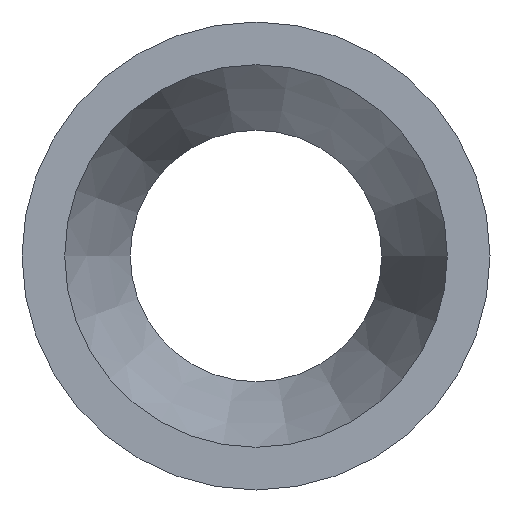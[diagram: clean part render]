
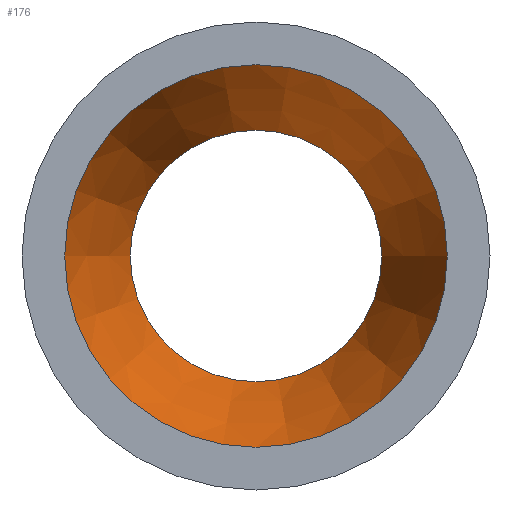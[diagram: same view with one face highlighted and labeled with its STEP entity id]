
A CAD part, left-side view. The second image highlights one B-rep face of the part: STEP entity #176.
In plain terms, the highlighted conical face has half-angle 18.939 degrees and reference radius 42.35 mm.
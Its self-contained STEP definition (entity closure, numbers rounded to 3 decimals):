
#128=CARTESIAN_POINT('',(149.099,33.6,0.));
#129=VERTEX_POINT('',#128);
#136=CARTESIAN_POINT('',(149.099,0.,0.));
#137=DIRECTION('',(1.,0.,0.));
#138=DIRECTION('',(0.,1.,0.));
#139=AXIS2_PLACEMENT_3D('',#136,#137,#138);
#140=CIRCLE('',#139,33.6);
#141=EDGE_CURVE('',#129,#129,#140,.T.);
#152=ORIENTED_EDGE('',*,*,#141,.T.);
#153=CARTESIAN_POINT('',(98.099,51.1,0.));
#154=VERTEX_POINT('',#153);
#155=CARTESIAN_POINT('',(123.599,42.35,0.));
#156=DIRECTION('',(0.946,-0.325,0.));
#157=VECTOR('',#156,42.35);
#158=LINE('',#155,#157);
#159=EDGE_CURVE('',#154,#129,#158,.T.);
#160=ORIENTED_EDGE('',*,*,#159,.F.);
#161=CARTESIAN_POINT('',(98.099,0.,0.));
#162=DIRECTION('',(1.,0.,0.));
#163=DIRECTION('',(0.,1.,0.));
#164=AXIS2_PLACEMENT_3D('',#161,#162,#163);
#165=CIRCLE('',#164,51.1);
#166=EDGE_CURVE('',#154,#154,#165,.T.);
#167=ORIENTED_EDGE('',*,*,#166,.F.);
#168=ORIENTED_EDGE('',*,*,#159,.T.);
#169=EDGE_LOOP('',(#152,#160,#167,#168));
#170=FACE_OUTER_BOUND('',#169,.T.);
#171=CARTESIAN_POINT('',(123.599,0.,0.));
#172=DIRECTION('',(-1.,0.,0.));
#173=DIRECTION('',(0.,1.,0.));
#174=AXIS2_PLACEMENT_3D('',#171,#172,#173);
#175=CONICAL_SURFACE('',#174,42.35,0.331);
#176=ADVANCED_FACE('',(#170),#175,.F.);
